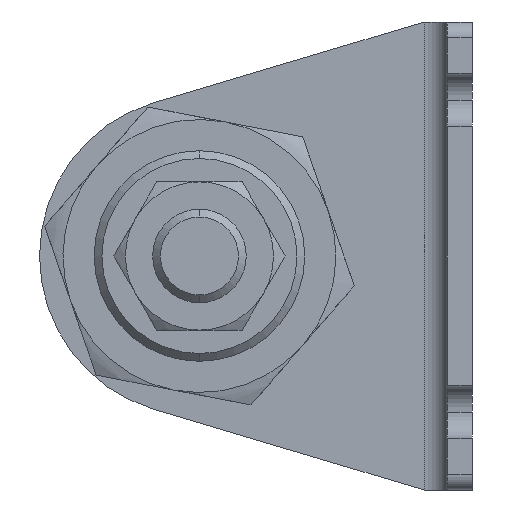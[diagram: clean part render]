
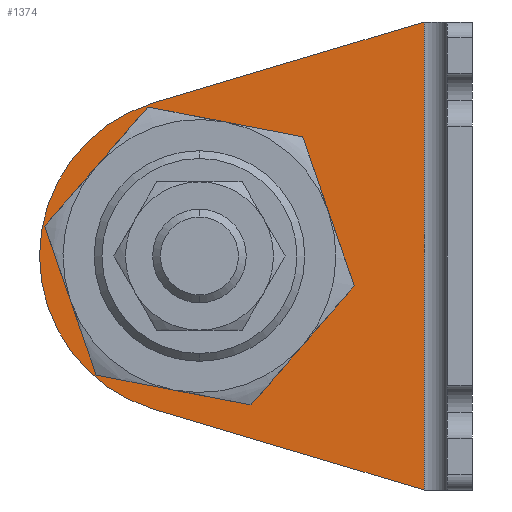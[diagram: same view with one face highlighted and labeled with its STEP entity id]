
A CAD part, left-side view. The second image highlights one B-rep face of the part: STEP entity #1374.
In plain terms, the highlighted planar face has unit normal (-1, 0, 0) as drawn and (1, 0, 0) by its records, which use the part's own axes.
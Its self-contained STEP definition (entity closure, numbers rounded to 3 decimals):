
#68 = DIRECTION ( 'NONE',  ( 0., 1., 0. ) ) ;
#87 = EDGE_CURVE ( 'NONE', #3922, #1835, #984, .T. ) ;
#135 = VERTEX_POINT ( 'NONE', #2778 ) ;
#234 = EDGE_CURVE ( 'NONE', #1835, #2845, #551, .T. ) ;
#244 = EDGE_LOOP ( 'NONE', ( #2743, #1671 ) ) ;
#367 = DIRECTION ( 'NONE',  ( 0., 1., 0. ) ) ;
#434 = CARTESIAN_POINT ( 'NONE',  ( 3.2, 3.2, -60. ) ) ;
#497 = DIRECTION ( 'NONE',  ( 1., 0., 0. ) ) ;
#551 = CIRCLE ( 'NONE', #1216, 20.5 ) ;
#740 = DIRECTION ( 'NONE',  ( 1., 0., 0. ) ) ;
#782 = LINE ( 'NONE', #3858, #4113 ) ;
#819 = CARTESIAN_POINT ( 'NONE',  ( 3.2, 35., -30. ) ) ;
#828 = EDGE_CURVE ( 'NONE', #2096, #135, #1872, .T. ) ;
#950 = CARTESIAN_POINT ( 'NONE',  ( 3.2, 40.868, -49.642 ) ) ;
#984 = CIRCLE ( 'NONE', #3020, 20.5 ) ;
#1106 = DIRECTION ( 'NONE',  ( 0., 0.958, -0.286 ) ) ;
#1122 = DIRECTION ( 'NONE',  ( 1., 0., 0. ) ) ;
#1216 = AXIS2_PLACEMENT_3D ( 'NONE', #2641, #3369, #1311 ) ;
#1237 = AXIS2_PLACEMENT_3D ( 'NONE', #2957, #1122, #3188 ) ;
#1249 = EDGE_CURVE ( 'NONE', #2249, #3922, #782, .T. ) ;
#1266 = ORIENTED_EDGE ( 'NONE', *, *, #1714, .T. ) ;
#1284 = AXIS2_PLACEMENT_3D ( 'NONE', #434, #497, #3956 ) ;
#1311 = DIRECTION ( 'NONE',  ( 0., 1., 0. ) ) ;
#1374 = ADVANCED_FACE ( 'NONE', ( #2054, #4261 ), #3499, .T. ) ;
#1620 = DIRECTION ( 'NONE',  ( 0., 0.958, 0.286 ) ) ;
#1671 = ORIENTED_EDGE ( 'NONE', *, *, #2026, .F. ) ;
#1714 = EDGE_CURVE ( 'NONE', #2254, #2249, #3195, .T. ) ;
#1727 = VECTOR ( 'NONE', #3553, 1000. ) ;
#1835 = VERTEX_POINT ( 'NONE', #2655 ) ;
#1872 = CIRCLE ( 'NONE', #1237, 13.5 ) ;
#1874 = CARTESIAN_POINT ( 'NONE',  ( 3.2, 19.903, -4.094 ) ) ;
#1930 = CARTESIAN_POINT ( 'NONE',  ( 3.2, 35., -30. ) ) ;
#2026 = EDGE_CURVE ( 'NONE', #135, #2096, #3109, .T. ) ;
#2054 = FACE_BOUND ( 'NONE', #244, .T. ) ;
#2096 = VERTEX_POINT ( 'NONE', #3100 ) ;
#2249 = VERTEX_POINT ( 'NONE', #2624 ) ;
#2254 = VERTEX_POINT ( 'NONE', #2775 ) ;
#2624 = CARTESIAN_POINT ( 'NONE',  ( 3.2, 6.2, -60. ) ) ;
#2641 = CARTESIAN_POINT ( 'NONE',  ( 3.2, 35., -30. ) ) ;
#2655 = CARTESIAN_POINT ( 'NONE',  ( 3.2, 55.5, -30. ) ) ;
#2743 = ORIENTED_EDGE ( 'NONE', *, *, #828, .F. ) ;
#2757 = EDGE_CURVE ( 'NONE', #2254, #2845, #3235, .T. ) ;
#2775 = CARTESIAN_POINT ( 'NONE',  ( 3.2, 6.2, 0. ) ) ;
#2778 = CARTESIAN_POINT ( 'NONE',  ( 3.2, 21.5, -30. ) ) ;
#2828 = CARTESIAN_POINT ( 'NONE',  ( 3.2, 6.2, -60. ) ) ;
#2845 = VERTEX_POINT ( 'NONE', #4087 ) ;
#2877 = VECTOR ( 'NONE', #1106, 1000. ) ;
#2957 = CARTESIAN_POINT ( 'NONE',  ( 3.2, 35., -30. ) ) ;
#3020 = AXIS2_PLACEMENT_3D ( 'NONE', #819, #740, #68 ) ;
#3083 = DIRECTION ( 'NONE',  ( 1., 0., 0. ) ) ;
#3100 = CARTESIAN_POINT ( 'NONE',  ( 3.2, 48.5, -30. ) ) ;
#3109 = CIRCLE ( 'NONE', #4483, 13.5 ) ;
#3188 = DIRECTION ( 'NONE',  ( 0., 1., 0. ) ) ;
#3195 = LINE ( 'NONE', #2828, #1727 ) ;
#3235 = LINE ( 'NONE', #1874, #2877 ) ;
#3243 = ORIENTED_EDGE ( 'NONE', *, *, #87, .T. ) ;
#3369 = DIRECTION ( 'NONE',  ( 1., 0., 0. ) ) ;
#3445 = EDGE_LOOP ( 'NONE', ( #3778, #3243, #3758, #3529, #1266 ) ) ;
#3499 = PLANE ( 'NONE',  #1284 ) ;
#3529 = ORIENTED_EDGE ( 'NONE', *, *, #2757, .F. ) ;
#3553 = DIRECTION ( 'NONE',  ( 0., 0., -1. ) ) ;
#3758 = ORIENTED_EDGE ( 'NONE', *, *, #234, .T. ) ;
#3778 = ORIENTED_EDGE ( 'NONE', *, *, #1249, .T. ) ;
#3858 = CARTESIAN_POINT ( 'NONE',  ( 3.2, 3.446, -60.823 ) ) ;
#3922 = VERTEX_POINT ( 'NONE', #950 ) ;
#3956 = DIRECTION ( 'NONE',  ( 0., 1., 0. ) ) ;
#4087 = CARTESIAN_POINT ( 'NONE',  ( 3.2, 40.868, -10.358 ) ) ;
#4113 = VECTOR ( 'NONE', #1620, 1000. ) ;
#4261 = FACE_OUTER_BOUND ( 'NONE', #3445, .T. ) ;
#4483 = AXIS2_PLACEMENT_3D ( 'NONE', #1930, #3083, #367 ) ;
